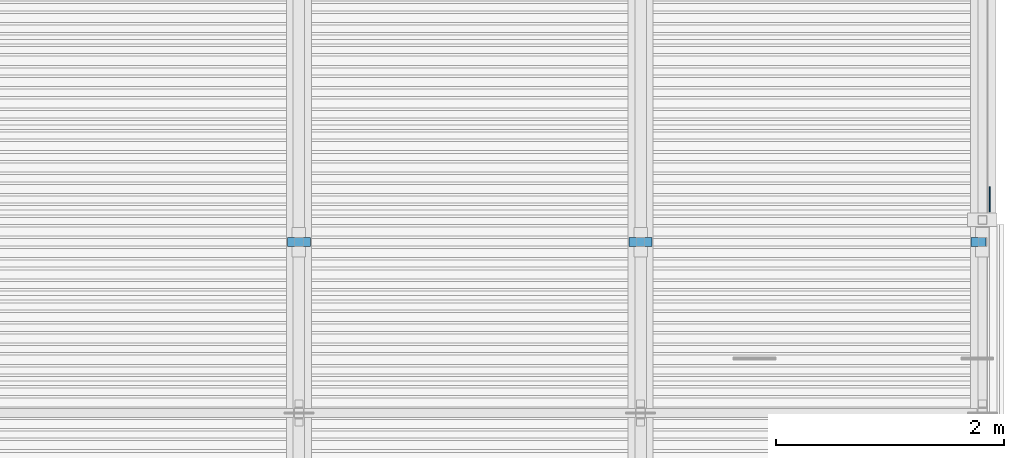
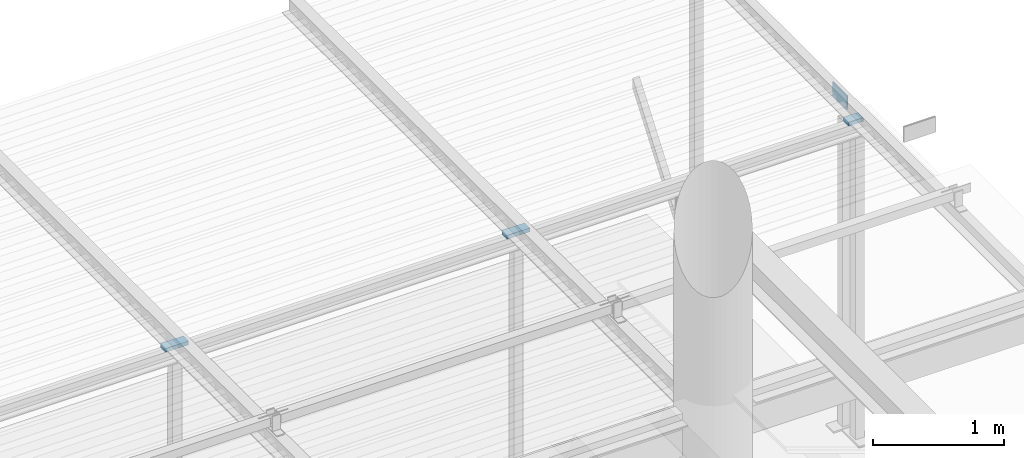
# One storey, part 35 of 98: 4 beams.
"""IFC2X3 building model written with IfcOpenShell, lengths in millimetres."""

import ifcopenshell
import ifcopenshell.guid

model = None  # the IFC model being written
_history = None  # IfcOwnerHistory: only IFC2X3 demands one
_inside = {}  # id of a spatial element -> (the spatial element, [elements in it])
_under = {}  # id of a project, library or spatial element -> (it, [spatial elements below it])
_declared = {}  # id of a project -> (the project, [libraries it declares])
_typed = {}  # id of a type object -> (the type object, [elements of that type])
_made_of = {}  # id of a material, layer set ... -> (it, [elements and type objects made of it])


def new_model(schema):
    """Start an empty IFC model of exactly this schema.

    Asked for "IFC4X3", IfcOpenShell would pick the latest addendum, in which some entities
    have other attributes; the version numbers below select the first issue.
    IFC2X3 requires an IfcOwnerHistory on every rooted entity: one is made here for all.
    """
    global model, _history
    if schema == "IFC4X3":
        model = ifcopenshell.file(schema_version=(4, 3, 0, 0))
    else:
        model = ifcopenshell.file(schema=schema)
    _inside.clear()
    _under.clear()
    _declared.clear()
    _typed.clear()
    _made_of.clear()
    _history = None
    if model.schema == "IFC2X3":
        org = make("IfcOrganization", Name="unknown")
        user = make(
            "IfcPersonAndOrganization",
            ThePerson=make("IfcPerson", FamilyName="unknown"),
            TheOrganization=org,
        )
        app = make(
            "IfcApplication",
            ApplicationDeveloper=org,
            Version="unknown",
            ApplicationFullName="unknown",
            ApplicationIdentifier="unknown",
        )
        _history = make(
            "IfcOwnerHistory",
            OwningUser=user,
            OwningApplication=app,
            ChangeAction="ADDED",
            CreationDate=0,
        )
    return model


def make(cls, **values):
    """One entity of the class cls with the attributes given. An attribute that is None is left unset."""
    return model.create_entity(
        cls, **{name: value for name, value in values.items() if value is not None}
    )


def entity(cls, *values):
    """Any entity or typed value of the class cls, its attributes in the order of the schema. None: left unset."""
    e = model.create_entity(cls)
    for i, value in enumerate(values):
        if value is not None:
            e[i] = value
    return e


def rooted(cls, **values):
    """An entity with a GlobalId (a new one), such as an element, a storey or a relation."""
    return make(cls, GlobalId=ifcopenshell.guid.new(), OwnerHistory=_history, **values)


def si_unit(unit_type, name, prefix=None):
    """IfcSIUnit, for example si_unit("LENGTHUNIT", "METRE", prefix="MILLI")."""
    return make("IfcSIUnit", UnitType=unit_type, Prefix=prefix, Name=name)


def converted_unit(unit_type, name, factor, base, dimensions=None, offset=None):
    """IfcConversionBasedUnit, such as the inch: factor (a typed value) times the base unit."""
    return make(
        "IfcConversionBasedUnit"
        if offset is None
        else "IfcConversionBasedUnitWithOffset",
        ConversionOffset=offset,
        Dimensions=None
        if dimensions is None
        else entity("IfcDimensionalExponents", *dimensions),
        UnitType=unit_type,
        Name=name,
        ConversionFactor=make(
            "IfcMeasureWithUnit", ValueComponent=factor, UnitComponent=base
        ),
    )


def derived_unit(unit_type, elements):
    """IfcDerivedUnit: a product of units, each with its exponent."""
    return make(
        "IfcDerivedUnit",
        Elements=[
            make("IfcDerivedUnitElement", Unit=unit, Exponent=power)
            for unit, power in elements
        ],
        UnitType=unit_type,
    )


def assignment(units):
    """IfcUnitAssignment: the units of a project."""
    return None if units is None else make("IfcUnitAssignment", Units=units)


def point(xyz):
    """IfcCartesianPoint."""
    return None if xyz is None else make("IfcCartesianPoint", Coordinates=xyz)


def direction(xyz):
    """IfcDirection."""
    return None if xyz is None else make("IfcDirection", DirectionRatios=xyz)


def frame(location, z_axis=None, x_axis=None):
    """IfcAxis2Placement3D, a coordinate frame: its origin and axes. An axis left out is left unset."""
    return make(
        "IfcAxis2Placement3D",
        Location=point(location),
        Axis=direction(z_axis),
        RefDirection=direction(x_axis),
    )


def origin_with_axes():
    """The frame at (0, 0, 0) with the z axis (0, 0, 1) and the x axis (1, 0, 0) written out."""
    return frame((0.0, 0.0, 0.0), z_axis=(0.0, 0.0, 1.0), x_axis=(1.0, 0.0, 0.0))


def place(relative_to, where):
    """IfcLocalPlacement: puts the frame where relative to a parent placement (None: the world)."""
    return make(
        "IfcLocalPlacement", PlacementRelTo=relative_to, RelativePlacement=where
    )


def context(
    kind, dimensions, precision=None, world=None, true_north=None, identifier=None
):
    """IfcGeometricRepresentationContext, for example the 3D "Model" context."""
    return make(
        "IfcGeometricRepresentationContext",
        ContextIdentifier=identifier,
        ContextType=kind,
        CoordinateSpaceDimension=dimensions,
        Precision=precision,
        WorldCoordinateSystem=world,
        TrueNorth=true_north,
    )


def subcontext(parent, identifier, kind, view, scale=None):
    """IfcGeometricRepresentationSubContext, for example "Body" below "Model"."""
    return make(
        "IfcGeometricRepresentationSubContext",
        ContextIdentifier=identifier,
        ContextType=kind,
        ParentContext=parent,
        TargetScale=scale,
        TargetView=view,
    )


def project(units=None, contexts=None):
    """IfcProject with its units and contexts."""
    return rooted(
        "IfcProject",
        Name="project",
        RepresentationContexts=contexts,
        UnitsInContext=assignment(units),
    )


def spatial(cls, under=None, at=None, **own):
    """A site, building, storey or space (cls), placed at a placement, below another one or the project."""
    s = rooted(cls, ObjectPlacement=at, **own)
    if under is not None:
        _under.setdefault(under.id(), (under, []))[1].append(s)
    return s


def faces_of(points, faces, orient=None, outer=None):
    """IfcFace entities. A face is a list of loops; a loop is a list of indices into points, from 0.

    orient and outer hold one flag for each loop. By default every Orientation is true, the
    first loop of a face is its IfcFaceOuterBound and the others are IfcFaceBound.
    """
    made = []
    for i, loops in enumerate(faces):
        bounds = []
        for j, loop in enumerate(loops):
            is_outer = j == 0 if outer is None else outer[i][j]
            bounds.append(
                make(
                    "IfcFaceOuterBound" if is_outer else "IfcFaceBound",
                    Bound=make("IfcPolyLoop", Polygon=[points[k] for k in loop]),
                    Orientation=True if orient is None else orient[i][j],
                )
            )
        made.append(make("IfcFace", Bounds=bounds))
    return made


def faceted_brep(points, faces, orient=None, outer=None, voids=None):
    """IfcFacetedBrep: a solid bounded by flat faces; with voids (closed shells), ...WithVoids."""
    shared = [point(p) for p in points]
    hull = make("IfcClosedShell", CfsFaces=faces_of(shared, faces, orient, outer))
    if voids is None:
        return make("IfcFacetedBrep", Outer=hull)
    return make(
        "IfcFacetedBrepWithVoids",
        Outer=hull,
        Voids=[
            make(cls, CfsFaces=faces_of(shared, fs, o, b)) for cls, fs, o, b in voids
        ],
    )


def shape(context_of_items, identifier, shape_type, items):
    """IfcShapeRepresentation: the items that make up one representation, for example the "Body"."""
    return make(
        "IfcShapeRepresentation",
        ContextOfItems=context_of_items,
        RepresentationIdentifier=identifier,
        RepresentationType=shape_type,
        Items=items,
    )


def material(Name=None, Category=None):
    """IfcMaterial."""
    return make("IfcMaterial", Name=Name, Category=Category)


def made_of(thing, what):
    """Note that an element or type object is made of a material, layer set ...; save() writes the relation."""
    if what is not None:
        _made_of.setdefault(what.id(), (what, []))[1].append(thing)
    return thing


def type_object(cls, material=None, **own):
    """A type object (cls), such as IfcWallType, which elements share."""
    return made_of(rooted(cls, **own), material)


def element(
    cls,
    number,
    at=None,
    inside=None,
    cuts=None,
    type_object=None,
    material=None,
    context=None,
    identifier="Body",
    shape_type=None,
    held_by="IfcProductDefinitionShape",
    body=None,
    shapes=None,
    **own,
):
    """One element of the class cls, such as IfcWall. Its Tag is "e" and its number.

    at: its placement. inside: the storey or other place that contains it. cuts: it is an
    opening in that element (IfcRelVoidsElement). A single representation is given by context,
    identifier, shape_type and body (its items); several are given by shapes. held_by: the class
    of the entity that holds the representations. save() writes the other relations.
    """
    e = rooted(cls, Tag="e%d" % number, ObjectPlacement=at, **own)
    if body is not None:
        shapes = [shape(context, identifier, shape_type, body)]
    if shapes is not None:
        e.Representation = make(held_by, Representations=shapes)
    if inside is not None:
        _inside.setdefault(inside.id(), (inside, []))[1].append(e)
    if cuts is not None:
        rooted(
            "IfcRelVoidsElement", RelatingBuildingElement=cuts, RelatedOpeningElement=e
        )
    if type_object is not None:
        _typed.setdefault(type_object.id(), (type_object, []))[1].append(e)
    return made_of(e, material)


def aggregate(whole, parts):
    """IfcRelAggregates: a whole, such as a stair, and the parts it consists of."""
    return rooted("IfcRelAggregates", RelatingObject=whole, RelatedObjects=parts)


def save(model, path):
    """Write the relations noted so far, then the file.

    IfcRelAggregates (storeys below a building ...), IfcRelContainedInSpatialStructure (elements
    in a storey), IfcRelDefinesByType, IfcRelAssociatesMaterial and IfcRelDeclares: one each for
    every whole, place, type object, material and project.
    """
    for whole, parts in _under.values():
        aggregate(whole, parts)
    for where, things in _inside.values():
        rooted(
            "IfcRelContainedInSpatialStructure",
            RelatedElements=things,
            RelatingStructure=where,
        )
    for kind, things in _typed.values():
        rooted("IfcRelDefinesByType", RelatedObjects=things, RelatingType=kind)
    for what, things in _made_of.values():
        rooted("IfcRelAssociatesMaterial", RelatedObjects=things, RelatingMaterial=what)
    for by, libraries in _declared.values():
        rooted("IfcRelDeclares", RelatingContext=by, RelatedDefinitions=libraries)
    model.write(path)


model = new_model("IFC2X3")

# Units and contexts
model_context = context("Model", 3, precision=0.01, world=frame((0.0, 4.29681676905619e-09, 0.0)), true_north=direction((4.01073788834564e-13, 1.0)))
plan_context = context("Plan", 3, precision=0.01, world=frame((0.0, 4.29681676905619e-09, 0.0)), true_north=direction((4.01073788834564e-13, 1.0)))
body_context = subcontext(model_context, "Body", "Model", "MODEL_VIEW")
ifc_project = project(units=[converted_unit("PLANEANGLEUNIT", "DEGREE", entity("IfcPositiveLengthMeasure", 0.0174532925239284), si_unit("PLANEANGLEUNIT", "RADIAN"), dimensions=[0, 0, 0, 0, 0, 0, 0]), si_unit("AREAUNIT", "SQUARE_METRE"), si_unit("LENGTHUNIT", "METRE", prefix="MILLI"), si_unit("MASSUNIT", "GRAM", prefix="KILO"), si_unit("POWERUNIT", "WATT"), si_unit("PRESSUREUNIT", "PASCAL"), si_unit("FORCEUNIT", "NEWTON", prefix="KILO"), si_unit("ELECTRICCURRENTUNIT", "AMPERE"), si_unit("THERMODYNAMICTEMPERATUREUNIT", "DEGREE_CELSIUS"), si_unit("TIMEUNIT", "SECOND"), si_unit("VOLUMEUNIT", "CUBIC_METRE"), derived_unit("LINEARVELOCITYUNIT", [(si_unit("LENGTHUNIT", "METRE"), 1), (si_unit("TIMEUNIT", "SECOND"), -1)]), derived_unit("VOLUMETRICFLOWRATEUNIT", [(si_unit("VOLUMEUNIT", "CUBIC_METRE"), 1), (si_unit("TIMEUNIT", "SECOND"), -1)]), derived_unit("THERMALTRANSMITTANCEUNIT", [(si_unit("POWERUNIT", "WATT"), 1), (si_unit("THERMODYNAMICTEMPERATUREUNIT", "KELVIN"), -1), (si_unit("AREAUNIT", "SQUARE_METRE"), -1)])], contexts=[model_context, plan_context])

# Site, building, storey
site_placement = place(None, frame((0.0, -4.29681676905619e-09, 0.0), z_axis=(0.0, 0.0, 1.0), x_axis=(1.0, 0.0, 0.0)))
site = spatial("IfcSite", under=ifc_project, at=site_placement, Name="Gardermoen", CompositionType="ELEMENT")
building_placement = place(site_placement, frame((0.0, 4.29681676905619e-09, 0.0), z_axis=(0.0, 0.0, 1.0), x_axis=(1.0, 0.0, 0.0)))
building = spatial("IfcBuilding", under=site, at=building_placement, Name="TS", CompositionType="ELEMENT")
storey_placement = place(building_placement, origin_with_axes())
storey = spatial("IfcBuildingStorey", under=building, at=storey_placement, Name="D", CompositionType="ELEMENT", Elevation=0.0)

# Beams
ifc_material = material(Name="STEEL/S355")
beam_type_1 = type_object("IfcBeamType", Name="PL130*10", PredefinedType="NOTDEFINED")
beam_1_placement = place(storey_placement, frame((532065.012747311, 417765.000682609, 206854.999718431), z_axis=(0.0, 0.0, 1.0), x_axis=(0.0, 1.0, 0.0)))
element("IfcBeam", 1, at=beam_1_placement, inside=storey, type_object=beam_type_1, material=ifc_material, Name="STÅLBJELKE", ObjectType="PL130*10", context=body_context, shape_type="Brep", body=[
    faceted_brep([(-1.04773789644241e-09, 5.0, -65.0000000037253), (1.04773789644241e-09, 5.0, 65.0000000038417), (220.000000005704, 5.0, 65.0), (220.000000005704, 5.0, -65.0), (1.04773789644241e-09, -5.0, 65.0000000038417), (220.000000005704, -5.0, 65.0), (-1.04773789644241e-09, -5.0, -65.0000000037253), (220.000000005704, -5.0, -65.0)], [[[0, 1, 2, 3]], [[1, 4, 5, 2]], [[4, 6, 7, 5]], [[6, 0, 3, 7]], [[5, 7, 3, 2]], [[6, 4, 1, 0]]]),
])
beam_type_2 = type_object("IfcBeamType", Name="PL35*80", PredefinedType="NOTDEFINED")
for number, where, z_axis, x_axis in (
    (2, (526100.0, 417539.960797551, 206897.499718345), (9.99999902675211e-08, -0.999999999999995, 0.0), (-0.999999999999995, -9.99999902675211e-08, 0.0)),
    (3, (529100.0, 417539.960797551, 206897.499718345), (9.99999902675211e-08, -0.999999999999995, 0.0), (-0.999999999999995, -9.99999902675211e-08, 0.0)),
):
    element("IfcBeam", number, at=place(storey_placement, frame(where, z_axis=z_axis, x_axis=x_axis)), inside=storey, type_object=beam_type_2, material=ifc_material, Name="STÅLBJELKE", ObjectType="PL35*80", context=body_context, shape_type="Brep", body=[
        faceted_brep([(-2.91038304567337e-10, -17.5000000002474, 2.3283064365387e-10), (0.0, -17.5, 80.0), (0.0, 17.5, 80.0), (2.3283064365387e-10, 17.5000000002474, 0.0), (200.0, -17.5, 80.0), (200.0, 17.5, 80.0), (200.0, -17.5, 5.82076609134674e-11), (200.0, 17.5, 5.82076609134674e-11)], [[[0, 1, 2, 3]], [[1, 4, 5, 2]], [[4, 6, 7, 5]], [[6, 0, 3, 7]], [[5, 7, 3, 2]], [[6, 4, 1, 0]]]),
    ])
beam_2_placement = place(storey_placement, frame((532030.0, 417539.960797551, 206897.499718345), z_axis=(9.99999902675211e-08, -0.999999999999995, 0.0), x_axis=(-0.999999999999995, -9.99999902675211e-08, 0.0)))
element("IfcBeam", 4, at=beam_2_placement, inside=storey, type_object=beam_type_2, material=ifc_material, Name="STÅLBJELKE", ObjectType="PL35*80", context=body_context, shape_type="Brep", body=[
    faceted_brep([(-2.91038304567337e-10, -17.5000000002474, 2.3283064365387e-10), (0.0, -17.5, 80.0), (0.0, 17.5, 80.0), (2.3283064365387e-10, 17.5000000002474, 0.0), (130.0, -17.5, 80.0), (130.0, 17.5, 80.0), (130.0, -17.5, 5.82076609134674e-11), (130.0, 17.5, 5.82076609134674e-11)], [[[0, 1, 2, 3]], [[1, 4, 5, 2]], [[4, 6, 7, 5]], [[6, 0, 3, 7]], [[5, 7, 3, 2]], [[6, 4, 1, 0]]]),
])

save(model, "model.ifc")
